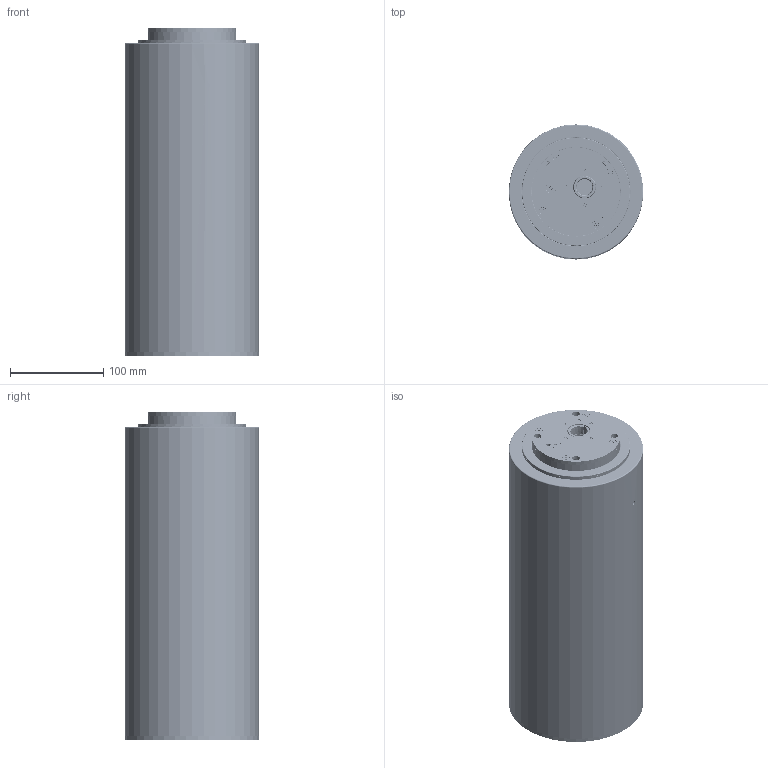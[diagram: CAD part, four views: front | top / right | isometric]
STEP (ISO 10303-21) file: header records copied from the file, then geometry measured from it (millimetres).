
FILE_DESCRIPTION (( 'STEP AP203' ), '1' );
FILE_NAME ('3D_TL56.STEP', '2024-03-05T03:03:26', ( '' ), ( '' ), 'SwSTEP 2.0', 'SolidWorks 2015', '' );
FILE_SCHEMA (( 'CONFIG_CONTROL_DESIGN' ));
Products named in the file (1): 3D_TL56
Bounding box: 144 x 144 x 350 mm (x, y, z)
Volume: 2346497.7 mm3; surface area: 922303.5 mm2
Topology: 47 solids, 47 shells, 4126 faces, 10816 edges, 6849 vertices
Faces by surface type: cylinder 2128, plane 975, bspline 400, cone 343, torus 251, sphere 29
Entity records: 198283 total; most frequent: CARTESIAN_POINT 105712, ORIENTED_EDGE 21594, DIRECTION 17368, EDGE_CURVE 10797, VERTEX_POINT 6849, AXIS2_PLACEMENT_3D 6564, EDGE_LOOP 4368, LINE 4240
